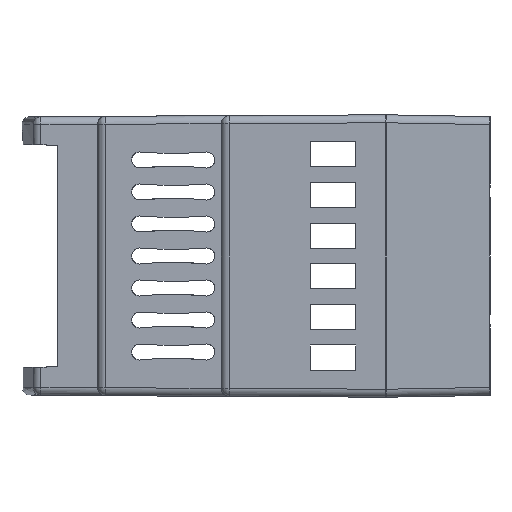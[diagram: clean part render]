
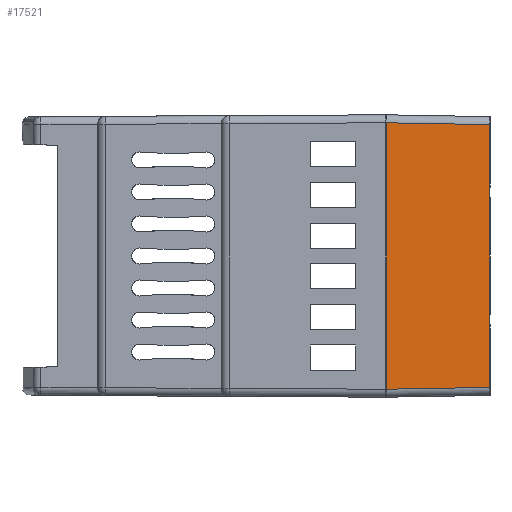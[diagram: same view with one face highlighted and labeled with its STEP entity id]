
A CAD part, left-side view. The second image highlights one B-rep face of the part: STEP entity #17521.
In plain terms, the highlighted planar face has unit normal (-1, -0.018, 0).
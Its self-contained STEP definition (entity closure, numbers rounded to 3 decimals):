
#283 = VECTOR ( 'NONE', #8802, 1000. ) ;
#701 = EDGE_CURVE ( 'NONE', #18057, #19577, #16067, .T. ) ;
#773 = VECTOR ( 'NONE', #10496, 1000. ) ;
#1607 = EDGE_CURVE ( 'NONE', #10519, #18057, #8226, .T. ) ;
#2327 = ORIENTED_EDGE ( 'NONE', *, *, #12051, .F. ) ;
#2625 = DIRECTION ( 'NONE',  ( 0., 0., 1. ) ) ;
#2820 = CARTESIAN_POINT ( 'NONE',  ( -45.073, -13., -17.65 ) ) ;
#2963 = CARTESIAN_POINT ( 'NONE',  ( -45.3, 0., 17.65 ) ) ;
#3409 = LINE ( 'NONE', #2963, #283 ) ;
#3720 = AXIS2_PLACEMENT_3D ( 'NONE', #18167, #18301, #9049 ) ;
#5689 = EDGE_LOOP ( 'NONE', ( #2327, #17741, #11538, #7209 ) ) ;
#6400 = CARTESIAN_POINT ( 'NONE',  ( -45.073, -13., -16.423 ) ) ;
#7209 = ORIENTED_EDGE ( 'NONE', *, *, #12092, .T. ) ;
#7579 = PLANE ( 'NONE',  #3720 ) ;
#8226 = LINE ( 'NONE', #8844, #15646 ) ;
#8802 = DIRECTION ( 'NONE',  ( 0., 0., 1. ) ) ;
#8844 = CARTESIAN_POINT ( 'NONE',  ( -45.29, -0.598, -16.64 ) ) ;
#9049 = DIRECTION ( 'NONE',  ( 0.017, -1., 0. ) ) ;
#10496 = DIRECTION ( 'NONE',  ( -0.017, 1., 0.017 ) ) ;
#10519 = VERTEX_POINT ( 'NONE', #19654 ) ;
#11149 = FACE_OUTER_BOUND ( 'NONE', #5689, .T. ) ;
#11538 = ORIENTED_EDGE ( 'NONE', *, *, #701, .T. ) ;
#11720 = CARTESIAN_POINT ( 'NONE',  ( -45.073, -13., 16.423 ) ) ;
#12051 = EDGE_CURVE ( 'NONE', #10519, #15236, #3409, .T. ) ;
#12064 = LINE ( 'NONE', #19656, #773 ) ;
#12092 = EDGE_CURVE ( 'NONE', #19577, #15236, #12064, .T. ) ;
#14873 = DIRECTION ( 'NONE',  ( 0.017, -1., 0.017 ) ) ;
#15236 = VERTEX_POINT ( 'NONE', #17356 ) ;
#15646 = VECTOR ( 'NONE', #14873, 1000. ) ;
#16067 = LINE ( 'NONE', #2820, #18959 ) ;
#17356 = CARTESIAN_POINT ( 'NONE',  ( -45.3, 0., 16.65 ) ) ;
#17521 = ADVANCED_FACE ( 'NONE', ( #11149 ), #7579, .T. ) ;
#17741 = ORIENTED_EDGE ( 'NONE', *, *, #1607, .T. ) ;
#18057 = VERTEX_POINT ( 'NONE', #6400 ) ;
#18167 = CARTESIAN_POINT ( 'NONE',  ( -45.3, 0., 17.65 ) ) ;
#18301 = DIRECTION ( 'NONE',  ( -1., -0.017, 0. ) ) ;
#18959 = VECTOR ( 'NONE', #2625, 1000. ) ;
#19577 = VERTEX_POINT ( 'NONE', #11720 ) ;
#19654 = CARTESIAN_POINT ( 'NONE',  ( -45.3, 0., -16.65 ) ) ;
#19656 = CARTESIAN_POINT ( 'NONE',  ( -45.3, 0.017, 16.65 ) ) ;
